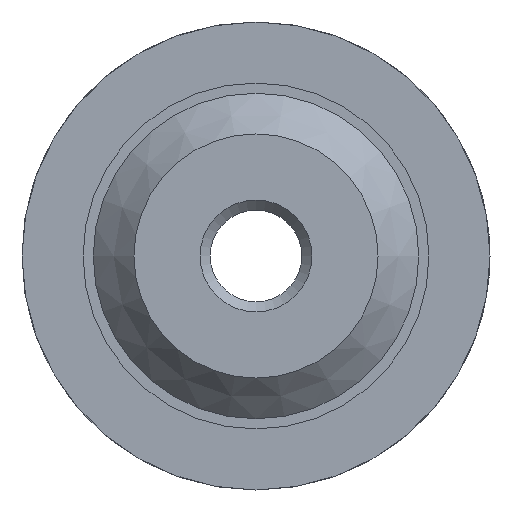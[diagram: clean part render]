
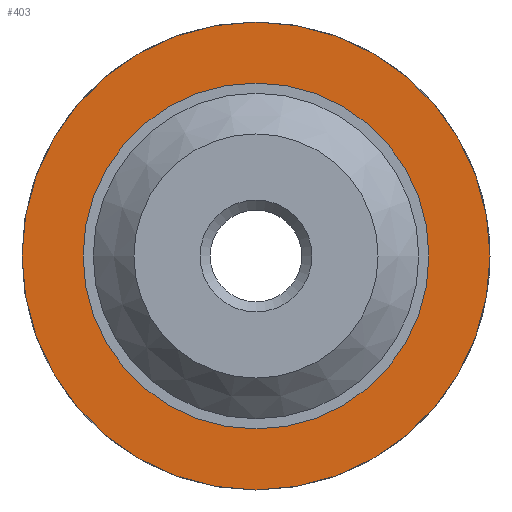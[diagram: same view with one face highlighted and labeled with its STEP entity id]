
A CAD part, front view. The second image highlights one B-rep face of the part: STEP entity #403.
In plain terms, the highlighted planar face has unit normal (0, -1, 0).
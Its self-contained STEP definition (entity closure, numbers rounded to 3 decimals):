
#20=FACE_BOUND('',#100,.T.);
#29=PLANE('',#477);
#71=FACE_OUTER_BOUND('',#99,.T.);
#99=EDGE_LOOP('',(#356));
#100=EDGE_LOOP('',(#357));
#162=CIRCLE('',#457,11.5);
#175=CIRCLE('',#478,8.5);
#201=VERTEX_POINT('',#687);
#210=VERTEX_POINT('',#722);
#242=EDGE_CURVE('',#201,#201,#162,.T.);
#260=EDGE_CURVE('',#210,#210,#175,.T.);
#356=ORIENTED_EDGE('',*,*,#242,.T.);
#357=ORIENTED_EDGE('',*,*,#260,.F.);
#403=ADVANCED_FACE('',(#71,#20),#29,.T.);
#457=AXIS2_PLACEMENT_3D('',#688,#555,#556);
#477=AXIS2_PLACEMENT_3D('',#721,#600,#601);
#478=AXIS2_PLACEMENT_3D('',#723,#602,#603);
#555=DIRECTION('center_axis',(0.,-1.,0.));
#556=DIRECTION('ref_axis',(1.,0.,0.));
#600=DIRECTION('center_axis',(0.,-1.,0.));
#601=DIRECTION('ref_axis',(0.,0.,-1.));
#602=DIRECTION('center_axis',(0.,-1.,0.));
#603=DIRECTION('ref_axis',(1.,0.,0.));
#687=CARTESIAN_POINT('',(-11.5,25.,0.));
#688=CARTESIAN_POINT('Origin',(0.,25.,0.));
#721=CARTESIAN_POINT('Origin',(8.5,25.,0.));
#722=CARTESIAN_POINT('',(-8.5,25.,0.));
#723=CARTESIAN_POINT('Origin',(0.,25.,0.));
